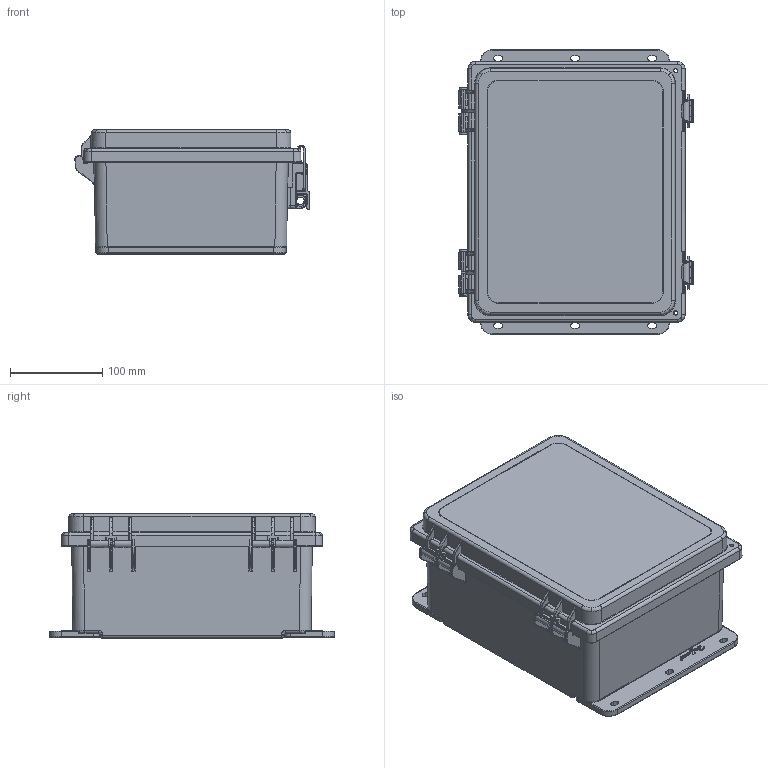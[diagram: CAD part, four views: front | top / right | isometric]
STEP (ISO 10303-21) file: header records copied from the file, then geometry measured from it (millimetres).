
FILE_DESCRIPTION (( 'STEP AP203' ), '1' );
FILE_NAME ('a1084phc.STEP', '2019-07-12T19:34:15', ( '' ), ( '' ), 'SwSTEP 2.0', 'SolidWorks 2016', '' );
FILE_SCHEMA (( 'CONFIG_CONTROL_DESIGN' ));
Length unit declared in the file: inch
Products named in the file (8): 87925621_87925621; 87925635_87925635; 87934975_87934975; 87934973_87934973; 87934971_87934971; 87938571_87938571; a1084phc; 87925600_87925600
Assembly tree (9 placements, depth 3):
  a1084phc
    87925600_87925600
    87925621_87925621
    87925635_87925635  x2
    87938571_87938571  x2
      87934975_87934975
      87934973_87934973
      87934971_87934971
Bounding box: 253.79 x 308.58 x 134.33 mm (x, y, z)
Volume: 994643.5 mm3; surface area: 648771.4 mm2
Topology: 12 solids, 12 shells, 4831 faces, 12434 edges, 7415 vertices
Faces by surface type: cylinder 1550, plane 1352, bspline 1219, sphere 350, torus 265, cone 95
Entity records: 137183 total; most frequent: CARTESIAN_POINT 61844, ORIENTED_EDGE 17130, DIRECTION 13281, EDGE_CURVE 8565, VERTEX_POINT 5268, AXIS2_PLACEMENT_3D 4638, VECTOR 4005, LINE 4005
